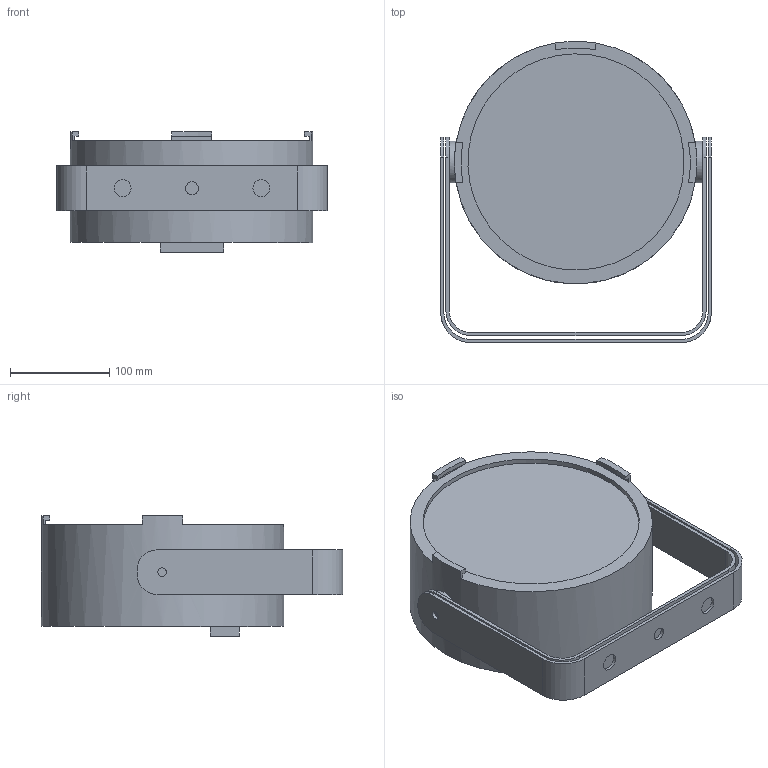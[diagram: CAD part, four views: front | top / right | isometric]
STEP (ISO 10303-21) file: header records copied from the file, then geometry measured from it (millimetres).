
FILE_DESCRIPTION(/* description */ (''),/* implementation_level */ '2;1');
FILE_NAME(/* name */ 'C:\Users\dgooch\Documents\!!CADENG\PRO\Colordash Par H18X\0\Colordash Par H18X_90_3D.stp',/* time_stamp */ '2022-08-02T12:02:01-04:00',/* author */ ('dgooch'),/* organization */ (''),/* preprocessor_version */ 'ST-DEVELOPER v19',/* originating_system */ 'Autodesk Inventor 2023',/* authorisation */ '');
FILE_SCHEMA (('AUTOMOTIVE_DESIGN { 1 0 10303 214 3 1 1 }'));
Length unit declared in the file: millimetre
Products named in the file (4): Colordash Par H18X; PRT0096 (1); PRT0097 (1); Main (1)
Assembly tree (3 placements, depth 2):
  Colordash Par H18X
    PRT0096 (1)
    PRT0097 (1)
    Main (1)
Bounding box: 272.8 x 303.73 x 121.75 mm (x, y, z)
Volume: 4848610.4 mm3; surface area: 305614.1 mm2
Topology: 3 solids, 3 shells, 75 faces, 199 edges, 133 vertices
Faces by surface type: plane 45, cylinder 29, bspline 1
Full cylindrical faces by diameter (mm): 8.5 x4, 13 x1, 17.2 x2, 42.102 x2, 244.458 x1
Entity records: 3968 total; most frequent: CARTESIAN_POINT 1857, DIRECTION 416, ORIENTED_EDGE 398, EDGE_CURVE 199, AXIS2_PLACEMENT_3D 143, VERTEX_POINT 133, LINE 130, VECTOR 130
